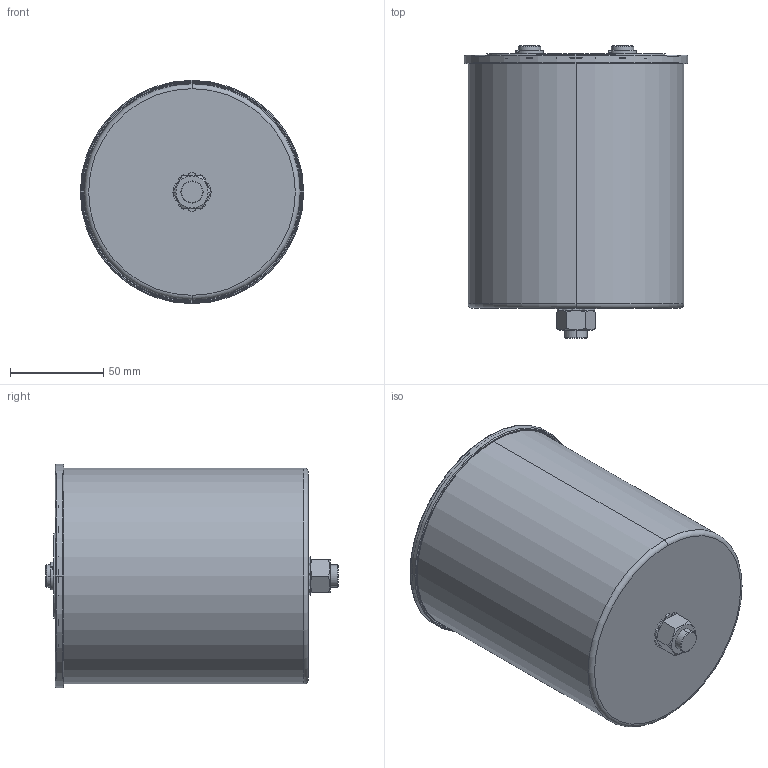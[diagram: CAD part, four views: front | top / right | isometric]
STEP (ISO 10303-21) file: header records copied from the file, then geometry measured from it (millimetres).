
FILE_DESCRIPTION (( 'STEP AP203' ), '1' );
FILE_NAME ('B25680Bx_116x136_141.STEP', '2021-09-13T06:34:50', ( '' ), ( '' ), 'SwSTEP 2.0', 'SolidWorks 2017', '' );
FILE_SCHEMA (( 'CONFIG_CONTROL_DESIGN' ));
Length unit declared in the file: millimetre
Products named in the file (1): B25680Bx_116x136_141
Bounding box: 120 x 157 x 120 mm (x, y, z)
Volume: 119472.6 mm3; surface area: 169941.5 mm2
Topology: 1 solids, 7 shells, 385 faces, 908 edges, 572 vertices
Faces by surface type: plane 153, cylinder 142, torus 42, cone 36, bspline 12
Entity records: 12405 total; most frequent: CARTESIAN_POINT 3162, DIRECTION 2092, ORIENTED_EDGE 1808, EDGE_CURVE 904, AXIS2_PLACEMENT_3D 850, VERTEX_POINT 572, CIRCLE 476, EDGE_LOOP 436
